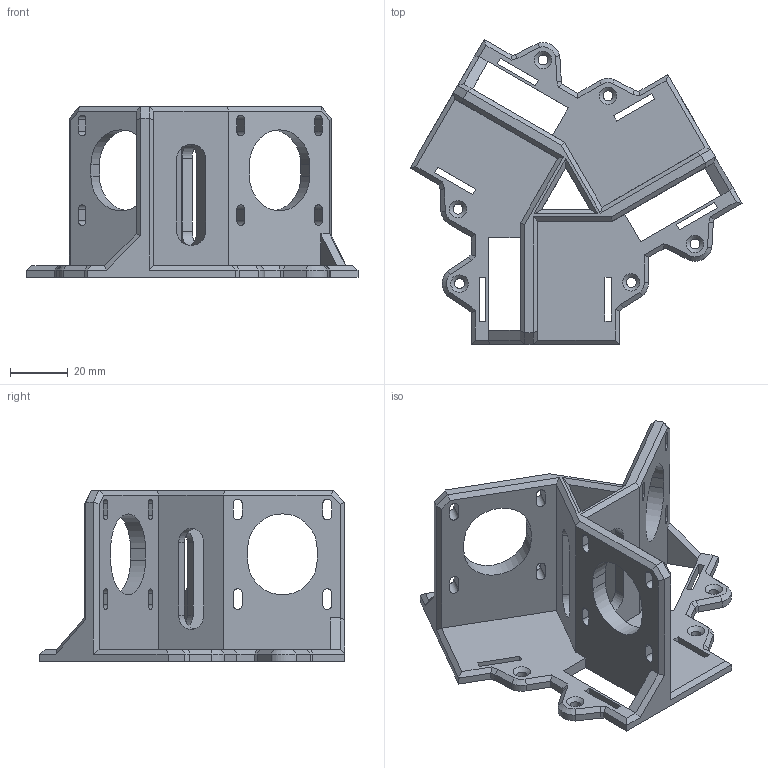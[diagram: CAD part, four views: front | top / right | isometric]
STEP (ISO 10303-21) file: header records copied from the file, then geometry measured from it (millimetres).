
FILE_DESCRIPTION(/* description */ (''),/* implementation_level */ '2;1');
FILE_NAME(/* name */ 'D:\3D печать\Мои проекты\Archy MK 2\STEP\моторама V2.stp',/* time_stamp */ '2019-03-20T22:04:18+06:00',/* author */ ('Пользователь'),/* organization */ (''),/* preprocessor_version */ 'ST-DEVELOPER v16.5',/* originating_system */ 'Autodesk Inventor 2017',/* authorisation */ '');
FILE_SCHEMA (('AUTOMOTIVE_DESIGN { 1 0 10303 214 3 1 1 }'));
Length unit declared in the file: millimetre
Products named in the file (1): моторама V2
Bounding box: 114.81 x 105.53 x 59 mm (x, y, z)
Volume: 67468.4 mm3; surface area: 35834.2 mm2
Topology: 1 solids, 1 shells, 248 faces, 673 edges, 428 vertices
Faces by surface type: plane 188, cylinder 48, cone 12
Full cylindrical faces by diameter (mm): 3.4 x6
Entity records: 7768 total; most frequent: CARTESIAN_POINT 1365, ORIENTED_EDGE 1314, DIRECTION 1258, EDGE_CURVE 657, LINE 544, VECTOR 544, VERTEX_POINT 420, AXIS2_PLACEMENT_3D 357
